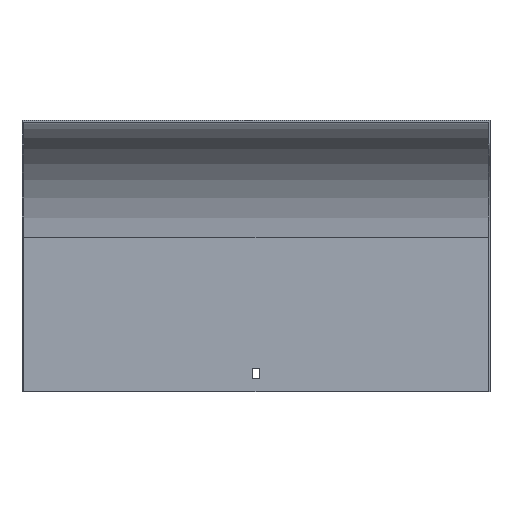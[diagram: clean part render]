
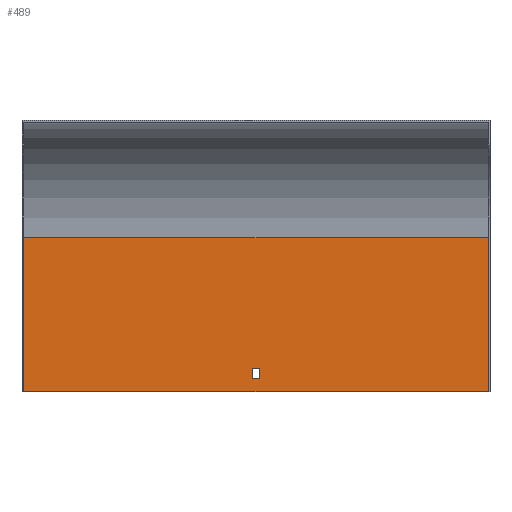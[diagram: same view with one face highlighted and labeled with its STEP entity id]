
A CAD part, top view. The second image highlights one B-rep face of the part: STEP entity #489.
In plain terms, the highlighted planar face has unit normal (0, 0, 1).
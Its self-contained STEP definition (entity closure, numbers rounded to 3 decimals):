
#32 = CARTESIAN_POINT ( 'NONE',  ( 202., -235.5, -234. ) ) ;
#46 = CARTESIAN_POINT ( 'NONE',  ( 203.5, -235.5, -234. ) ) ;
#57 = VERTEX_POINT ( 'NONE', #751 ) ;
#66 = EDGE_CURVE ( 'NONE', #615, #57, #211, .T. ) ;
#91 = ORIENTED_EDGE ( 'NONE', *, *, #226, .T. ) ;
#100 = EDGE_CURVE ( 'NONE', #57, #414, #629, .T. ) ;
#104 = DIRECTION ( 'NONE',  ( -1., 0., 0. ) ) ;
#114 = CARTESIAN_POINT ( 'NONE',  ( -3.25, -215.5, -234. ) ) ;
#122 = ORIENTED_EDGE ( 'NONE', *, *, #66, .T. ) ;
#137 = EDGE_CURVE ( 'NONE', #424, #731, #450, .T. ) ;
#149 = VECTOR ( 'NONE', #621, 1000. ) ;
#161 = CARTESIAN_POINT ( 'NONE',  ( -3.25, -101.5, -234. ) ) ;
#179 = LINE ( 'NONE', #46, #327 ) ;
#187 = FACE_OUTER_BOUND ( 'NONE', #447, .T. ) ;
#211 = LINE ( 'NONE', #500, #624 ) ;
#226 = EDGE_CURVE ( 'NONE', #414, #762, #787, .T. ) ;
#258 = VECTOR ( 'NONE', #650, 1000. ) ;
#264 = CARTESIAN_POINT ( 'NONE',  ( 203.5, -215.5, -234. ) ) ;
#282 = ORIENTED_EDGE ( 'NONE', *, *, #100, .T. ) ;
#310 = VECTOR ( 'NONE', #523, 1000. ) ;
#312 = ORIENTED_EDGE ( 'NONE', *, *, #832, .T. ) ;
#327 = VECTOR ( 'NONE', #104, 1000. ) ;
#343 = CARTESIAN_POINT ( 'NONE',  ( 3.25, -215.5, -234. ) ) ;
#351 = LINE ( 'NONE', #482, #149 ) ;
#379 = CARTESIAN_POINT ( 'NONE',  ( 202., -101.5, -234. ) ) ;
#393 = CARTESIAN_POINT ( 'NONE',  ( 203.5, -101.5, -234. ) ) ;
#399 = EDGE_CURVE ( 'NONE', #695, #708, #769, .T. ) ;
#402 = ORIENTED_EDGE ( 'NONE', *, *, #399, .T. ) ;
#405 = ORIENTED_EDGE ( 'NONE', *, *, #601, .T. ) ;
#414 = VERTEX_POINT ( 'NONE', #823 ) ;
#424 = VERTEX_POINT ( 'NONE', #560 ) ;
#447 = EDGE_LOOP ( 'NONE', ( #505, #569, #402, #312 ) ) ;
#450 = LINE ( 'NONE', #583, #310 ) ;
#467 = EDGE_CURVE ( 'NONE', #695, #424, #179, .T. ) ;
#482 = CARTESIAN_POINT ( 'NONE',  ( 203.5, -101.5, -234. ) ) ;
#489 = ADVANCED_FACE ( 'NONE', ( #187, #593 ), #645, .T. ) ;
#497 = DIRECTION ( 'NONE',  ( 1., 0., 0. ) ) ;
#500 = CARTESIAN_POINT ( 'NONE',  ( 3.25, -101.5, -234. ) ) ;
#505 = ORIENTED_EDGE ( 'NONE', *, *, #137, .F. ) ;
#519 = CARTESIAN_POINT ( 'NONE',  ( -202., -101.5, -234. ) ) ;
#523 = DIRECTION ( 'NONE',  ( 0., 1., 0. ) ) ;
#559 = LINE ( 'NONE', #264, #863 ) ;
#560 = CARTESIAN_POINT ( 'NONE',  ( -202., -235.5, -234. ) ) ;
#569 = ORIENTED_EDGE ( 'NONE', *, *, #467, .F. ) ;
#583 = CARTESIAN_POINT ( 'NONE',  ( -202., -101.5, -234. ) ) ;
#589 = DIRECTION ( 'NONE',  ( 1., 0., 0. ) ) ;
#593 = FACE_BOUND ( 'NONE', #681, .T. ) ;
#601 = EDGE_CURVE ( 'NONE', #762, #615, #559, .T. ) ;
#615 = VERTEX_POINT ( 'NONE', #343 ) ;
#621 = DIRECTION ( 'NONE',  ( -1., 0., 0. ) ) ;
#624 = VECTOR ( 'NONE', #680, 1000. ) ;
#629 = LINE ( 'NONE', #848, #258 ) ;
#645 = PLANE ( 'NONE',  #693 ) ;
#647 = VECTOR ( 'NONE', #710, 1000. ) ;
#650 = DIRECTION ( 'NONE',  ( -1., 0., 0. ) ) ;
#680 = DIRECTION ( 'NONE',  ( 0., -1., 0. ) ) ;
#681 = EDGE_LOOP ( 'NONE', ( #282, #91, #405, #122 ) ) ;
#691 = CARTESIAN_POINT ( 'NONE',  ( 202., -101.5, -234. ) ) ;
#693 = AXIS2_PLACEMENT_3D ( 'NONE', #393, #735, #589 ) ;
#695 = VERTEX_POINT ( 'NONE', #32 ) ;
#707 = DIRECTION ( 'NONE',  ( 0., 1., 0. ) ) ;
#708 = VERTEX_POINT ( 'NONE', #379 ) ;
#710 = DIRECTION ( 'NONE',  ( 0., 1., 0. ) ) ;
#731 = VERTEX_POINT ( 'NONE', #519 ) ;
#735 = DIRECTION ( 'NONE',  ( 0., 0., 1. ) ) ;
#751 = CARTESIAN_POINT ( 'NONE',  ( 3.25, -224.5, -234. ) ) ;
#762 = VERTEX_POINT ( 'NONE', #114 ) ;
#769 = LINE ( 'NONE', #691, #802 ) ;
#787 = LINE ( 'NONE', #161, #647 ) ;
#802 = VECTOR ( 'NONE', #707, 1000. ) ;
#823 = CARTESIAN_POINT ( 'NONE',  ( -3.25, -224.5, -234. ) ) ;
#832 = EDGE_CURVE ( 'NONE', #708, #731, #351, .T. ) ;
#848 = CARTESIAN_POINT ( 'NONE',  ( 203.5, -224.5, -234. ) ) ;
#863 = VECTOR ( 'NONE', #497, 1000. ) ;
